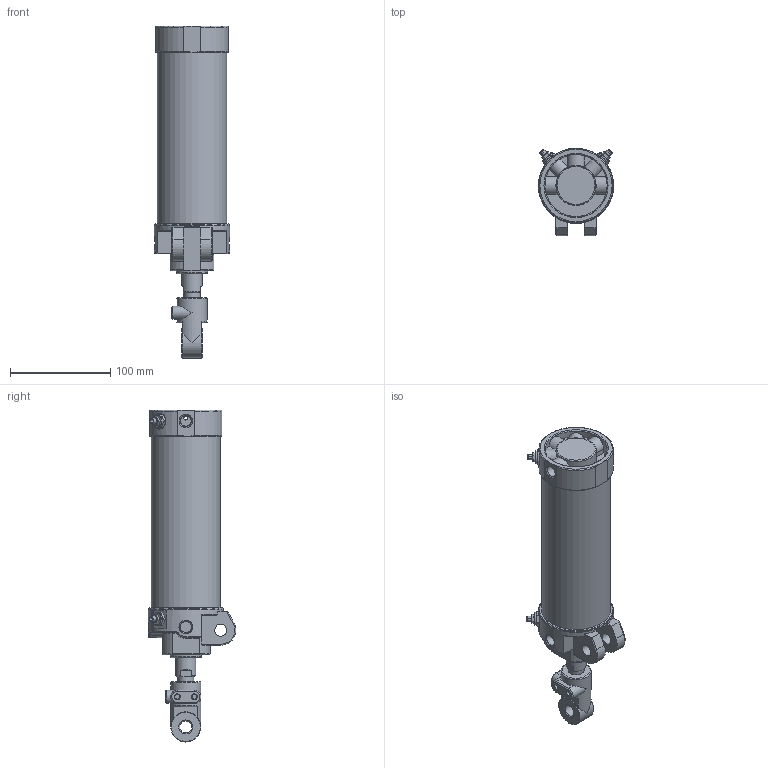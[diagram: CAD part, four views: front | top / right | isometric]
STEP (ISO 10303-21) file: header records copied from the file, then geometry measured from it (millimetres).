
FILE_DESCRIPTION((''),'2;1');
FILE_NAME('I:\3D電子目錄\氣缸\DCK\DCK\DCK-1A-63x125-I.stp','2008-02-26T15:25:17',('Administrator'),(''),'Autodesk Inventor 11','Autodesk Inventor 11','');
FILE_SCHEMA(('AUTOMOTIVE_DESIGN { 1 0 10303 214 1 1 1 1 }'));
Length unit declared in the file: millimetre
Products named in the file (6): DCK-1A-63-I; DCK-1B-63-I; 緩衝針; 緩衝針-1; 緩衝針-201; 緩衝針-3
Assembly tree (8 placements, depth 3):
  DCK-1A-63-I
    DCK-1B-63-I
    緩衝針  x4
      緩衝針-1
      緩衝針-201
      緩衝針-3
Bounding box: 75 x 87.29 x 331 mm (x, y, z)
Volume: 385223.3 mm3; surface area: 154338.8 mm2
Topology: 17 solids, 17 shells, 639 faces, 1407 edges, 875 vertices
Faces by surface type: plane 233, cylinder 179, cone 139, torus 49, bspline 39
Full cylindrical faces by diameter (mm): 2 x1, 3 x2, 3.8 x2, 4 x6, 4.6 x4, 5 x8, 5.1 x4, 5.2 x12, 5.5 x4, 7 x1, 7.25 x1, 7.9 x4, 8 x2, 11.3 x3, 12 x3, 12.8 x4, 16 x3, 20 x1, 21 x1, 22 x2, 23 x1, 24.7 x1, 26 x1, 27 x1, 28 x1, 29 x1, 30 x2, 31 x1, 33 x1, 62 x1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
Entity records: 13902 total; most frequent: CARTESIAN_POINT 5736, DIRECTION 1661, ORIENTED_EDGE 1492, EDGE_CURVE 746, AXIS2_PLACEMENT_3D 726, EDGE_LOOP 584, VERTEX_POINT 538, FACE_OUTER_BOUND 390
